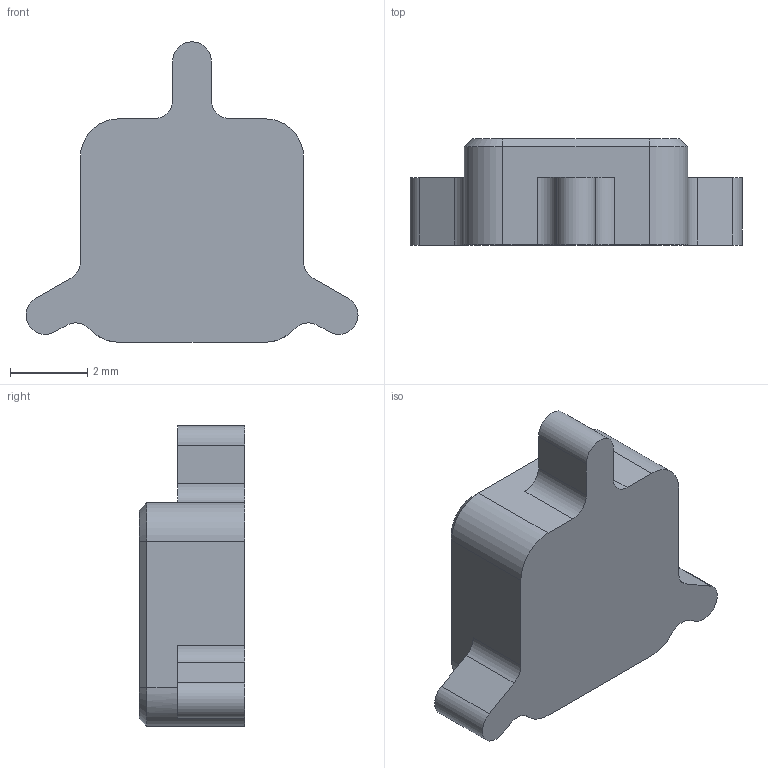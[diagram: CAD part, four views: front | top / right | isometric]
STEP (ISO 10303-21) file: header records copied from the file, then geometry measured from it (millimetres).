
FILE_DESCRIPTION(/* description */ (''),/* implementation_level */ '2;1');
FILE_NAME(/* name */ 'Square Button.step',/* time_stamp */ '2022-11-03T21:42:13+09:00',/* author */ (''),/* organization */ (''),/* preprocessor_version */ 'ST-DEVELOPER v19.2',/* originating_system */ 'Autodesk Translation Framework v11.17.0.187',/* authorisation */ '');
FILE_SCHEMA (('AUTOMOTIVE_DESIGN { 1 0 10303 214 3 1 1 }','AP242_MANAGED_MODEL_BASED_3D_ENGINEERING_MIM_LF { 1 0 10303 442 3 1 4 }'));
Length unit declared in the file: millimetre
Products named in the file (1): Square Button
Bounding box: 8.62 x 2.75 x 7.8 mm (x, y, z)
Volume: 98.5 mm3; surface area: 145.8 mm2
Topology: 1 solids, 1 shells, 36 faces, 94 edges, 60 vertices
Faces by surface type: plane 19, cylinder 13, cone 4
Entity records: 1146 total; most frequent: DIRECTION 200, CARTESIAN_POINT 191, ORIENTED_EDGE 188, EDGE_CURVE 94, AXIS2_PLACEMENT_3D 69, LINE 62, VECTOR 62, VERTEX_POINT 60
